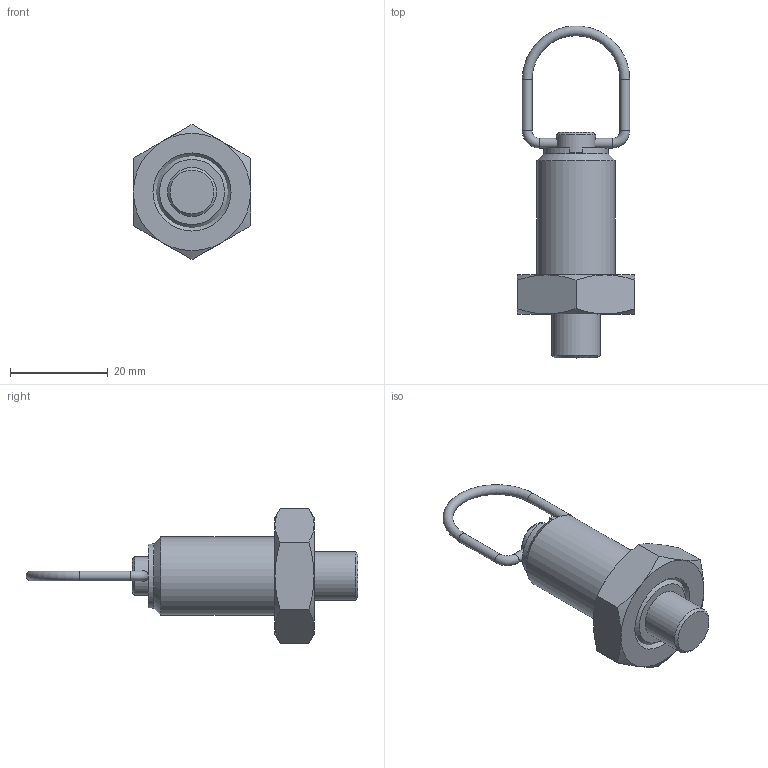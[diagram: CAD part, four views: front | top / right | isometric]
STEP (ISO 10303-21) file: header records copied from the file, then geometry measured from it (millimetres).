
FILE_DESCRIPTION( ( 'STEP AP203' ), '1' );
FILE_NAME( 'C:/Temp/Ganter_Step_05_03_2020/data/3_1/gn_413/gn413_st/gn413_st_ak/Steel-Indexing plunger GN 413-10-M16x1,5-AK-ST (deactivated-0).stp', '2020-03-12T09:10:34', ( 'License CC BY-ND 4.0' ), ( 'CADENAS' ), ' ', 'PARTsolutions', ' ' );
FILE_SCHEMA( ( 'CONFIG_CONTROL_DESIGN' ) );
Length unit declared in the file: millimetre
Products named in the file (4): Steel-Indexing plunger GN 413-10-M16x1,5-AK-ST (deactivated-0); _Steel-Indexing plunger  GN 413-10-M16-AK-ST (deactivated)_f; _Steel-Indexing plunger GN 413-10-M16-AK-ST (deactivated)_b; _Steel-Indexing plunger GN 413-10-M16-AK-ST (deactivated)_km
Assembly tree (3 placements, depth 2):
  Steel-Indexing plunger GN 413-10-M16x1,5-AK-ST (deactivated-0)
    _Steel-Indexing plunger  GN 413-10-M16-AK-ST (deactivated)_f
    _Steel-Indexing plunger GN 413-10-M16-AK-ST (deactivated)_b
    _Steel-Indexing plunger GN 413-10-M16-AK-ST (deactivated)_km
Bounding box: 24 x 67.99 x 27.71 mm (x, y, z)
Volume: 10040.3 mm3; surface area: 6352.3 mm2
Topology: 3 solids, 3 shells, 61 faces, 129 edges, 78 vertices
Faces by surface type: plane 24, cone 20, cylinder 14, torus 3
Full cylindrical faces by diameter (mm): 2 x4, 8 x2, 8.3 x1, 10 x2, 11 x2, 13.2 x1, 13.835 x1, 16 x1
Entity records: 1767 total; most frequent: CARTESIAN_POINT 455, DIRECTION 254, ORIENTED_EDGE 198, AXIS2_PLACEMENT_3D 116, EDGE_CURVE 99, EDGE_LOOP 96, FACE_OUTER_BOUND 78, VERTEX_POINT 73
